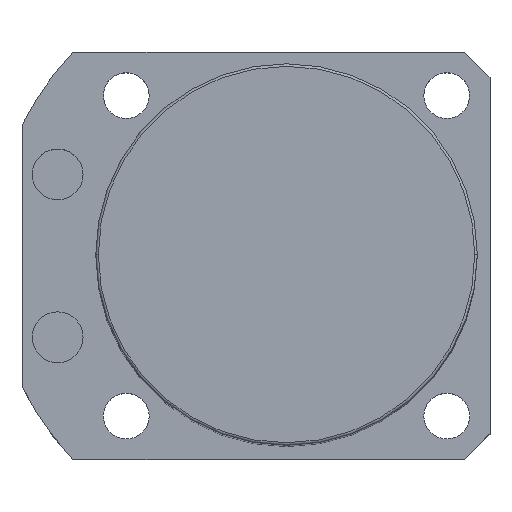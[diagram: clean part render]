
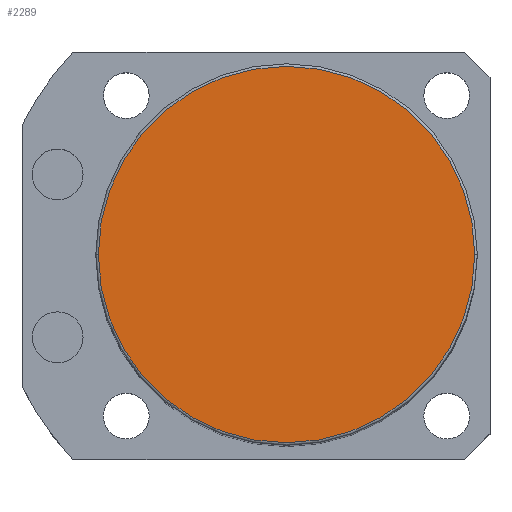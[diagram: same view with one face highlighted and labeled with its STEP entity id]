
A CAD part, top view. The second image highlights one B-rep face of the part: STEP entity #2289.
In plain terms, the highlighted planar face has unit normal (0, 0, 1).
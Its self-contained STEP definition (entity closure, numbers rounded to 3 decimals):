
#119 = CARTESIAN_POINT ( 'NONE',  ( 0., 0., 165.5 ) ) ;
#356 = DIRECTION ( 'NONE',  ( 0., 0., 1. ) ) ;
#493 = DIRECTION ( 'NONE',  ( 0., 0., 1. ) ) ;
#567 = AXIS2_PLACEMENT_3D ( 'NONE', #2444, #493, #740 ) ;
#573 = DIRECTION ( 'NONE',  ( 1., 0., 0. ) ) ;
#740 = DIRECTION ( 'NONE',  ( 1., 0., 0. ) ) ;
#778 = CARTESIAN_POINT ( 'NONE',  ( 0., 0., 165.5 ) ) ;
#1167 = CARTESIAN_POINT ( 'NONE',  ( 37., 0., 165.5 ) ) ;
#1192 = VERTEX_POINT ( 'NONE', #1541 ) ;
#1198 = DIRECTION ( 'NONE',  ( 0., 0., 1. ) ) ;
#1238 = CIRCLE ( 'NONE', #2602, 37. ) ;
#1452 = CIRCLE ( 'NONE', #1835, 37. ) ;
#1498 = ORIENTED_EDGE ( 'NONE', *, *, #2307, .T. ) ;
#1541 = CARTESIAN_POINT ( 'NONE',  ( -37., 0., 165.5 ) ) ;
#1804 = ORIENTED_EDGE ( 'NONE', *, *, #2146, .T. ) ;
#1835 = AXIS2_PLACEMENT_3D ( 'NONE', #119, #356, #1943 ) ;
#1943 = DIRECTION ( 'NONE',  ( 1., 0., 0. ) ) ;
#2037 = FACE_OUTER_BOUND ( 'NONE', #2099, .T. ) ;
#2043 = PLANE ( 'NONE',  #567 ) ;
#2099 = EDGE_LOOP ( 'NONE', ( #1804, #1498 ) ) ;
#2146 = EDGE_CURVE ( 'NONE', #2339, #1192, #1452, .T. ) ;
#2289 = ADVANCED_FACE ( 'NONE', ( #2037 ), #2043, .T. ) ;
#2307 = EDGE_CURVE ( 'NONE', #1192, #2339, #1238, .T. ) ;
#2339 = VERTEX_POINT ( 'NONE', #1167 ) ;
#2444 = CARTESIAN_POINT ( 'NONE',  ( 0., 0., 165.5 ) ) ;
#2602 = AXIS2_PLACEMENT_3D ( 'NONE', #778, #1198, #573 ) ;
